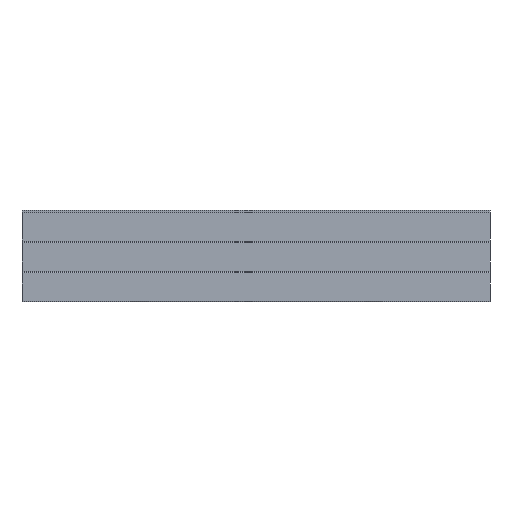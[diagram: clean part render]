
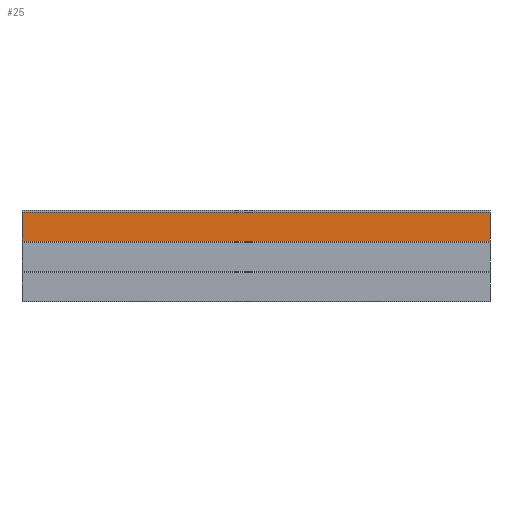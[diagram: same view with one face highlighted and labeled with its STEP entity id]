
A CAD part, top view. The second image highlights one B-rep face of the part: STEP entity #25.
In plain terms, the highlighted planar face has unit normal (0, 0, 1).
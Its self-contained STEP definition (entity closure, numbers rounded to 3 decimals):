
#25=ADVANCED_FACE('',(#49),#407,.T.);
#49=FACE_OUTER_BOUND('',#73,.T.);
#73=EDGE_LOOP('',(#109,#110,#111,#112));
#109=ORIENTED_EDGE('',*,*,#202,.T.);
#110=ORIENTED_EDGE('',*,*,#203,.T.);
#111=ORIENTED_EDGE('',*,*,#204,.F.);
#112=ORIENTED_EDGE('',*,*,#200,.F.);
#200=EDGE_CURVE('',#347,#348,#268,.T.);
#202=EDGE_CURVE('',#347,#349,#307,.T.);
#203=EDGE_CURVE('',#349,#350,#308,.T.);
#204=EDGE_CURVE('',#348,#350,#309,.T.);
#268=(
BOUNDED_CURVE()
B_SPLINE_CURVE(1,(#538,#539),.UNSPECIFIED.,.F.,.F.)
B_SPLINE_CURVE_WITH_KNOTS((2,2),(0.,6200.),.UNSPECIFIED.)
CURVE()
GEOMETRIC_REPRESENTATION_ITEM()
RATIONAL_B_SPLINE_CURVE((1.,1.))
REPRESENTATION_ITEM('')
);
#307=B_SPLINE_CURVE_WITH_KNOTS('',1,(#543,#544),.UNSPECIFIED.,.F.,.F.,(2,
2),(1000.478,1380.478),.UNSPECIFIED.);
#308=B_SPLINE_CURVE_WITH_KNOTS('',1,(#545,#546),.UNSPECIFIED.,.F.,.F.,(2,
2),(0.,6200.),.UNSPECIFIED.);
#309=B_SPLINE_CURVE_WITH_KNOTS('',1,(#547,#548),.UNSPECIFIED.,.F.,.F.,(2,
2),(1000.478,1380.478),.UNSPECIFIED.);
#347=VERTEX_POINT('',#503);
#348=VERTEX_POINT('',#504);
#349=VERTEX_POINT('',#505);
#350=VERTEX_POINT('',#506);
#407=PLANE('',#439);
#439=AXIS2_PLACEMENT_3D('',#481,#454,$);
#454=DIRECTION('',(0.,0.,1.));
#481=CARTESIAN_POINT('',(-3100.,1180.218,5.814));
#503=CARTESIAN_POINT('',(-3100.,1180.218,5.814));
#504=CARTESIAN_POINT('',(3100.,1180.218,5.814));
#505=CARTESIAN_POINT('',(-3100.,800.218,5.814));
#506=CARTESIAN_POINT('',(3100.,800.218,5.814));
#538=CARTESIAN_POINT('',(-3100.,1180.218,5.814));
#539=CARTESIAN_POINT('',(3100.,1180.218,5.814));
#543=CARTESIAN_POINT('',(-3100.,1180.218,5.814));
#544=CARTESIAN_POINT('',(-3100.,800.218,5.814));
#545=CARTESIAN_POINT('',(-3100.,800.218,5.814));
#546=CARTESIAN_POINT('',(3100.,800.218,5.814));
#547=CARTESIAN_POINT('',(3100.,1180.218,5.814));
#548=CARTESIAN_POINT('',(3100.,800.218,5.814));
